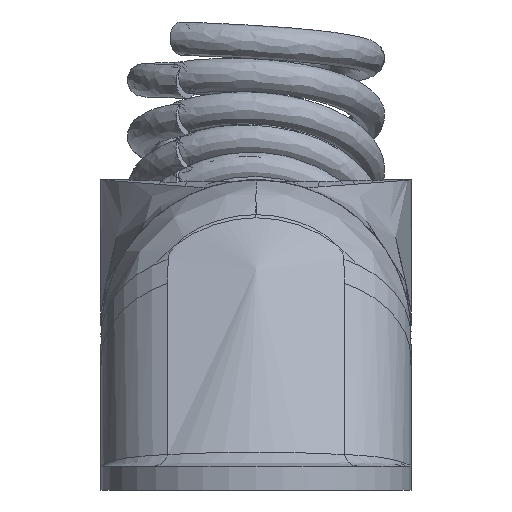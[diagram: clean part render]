
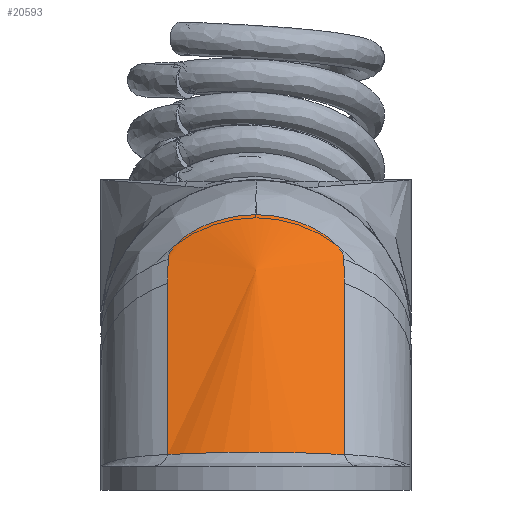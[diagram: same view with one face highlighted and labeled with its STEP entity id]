
A CAD part, left-side view. The second image highlights one B-rep face of the part: STEP entity #20593.
In plain terms, the highlighted free-form (B-spline) face has degree [1, 2] with [2, 9] control points.
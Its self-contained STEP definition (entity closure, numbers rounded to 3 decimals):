
#19006=CARTESIAN_POINT('',(-152.363,3.695,2.484));
#19007=VERTEX_POINT('',#19006);
#19206=CARTESIAN_POINT('',(-152.363,-3.695,2.484));
#19207=VERTEX_POINT('',#19206);
#19216=CARTESIAN_POINT('',(-152.363,-3.695,2.484));
#19217=CARTESIAN_POINT('',(-152.515,-3.456,2.498));
#19218=CARTESIAN_POINT('',(-152.651,-3.208,2.51));
#19219=CARTESIAN_POINT('',(-152.857,-2.767,2.529));
#19220=CARTESIAN_POINT('',(-152.935,-2.578,2.536));
#19221=CARTESIAN_POINT('',(-153.073,-2.193,2.549));
#19222=CARTESIAN_POINT('',(-153.134,-1.998,2.555));
#19223=CARTESIAN_POINT('',(-153.237,-1.604,2.566));
#19224=CARTESIAN_POINT('',(-153.279,-1.406,2.57));
#19225=CARTESIAN_POINT('',(-153.347,-1.006,2.578));
#19226=CARTESIAN_POINT('',(-153.372,-0.806,2.581));
#19227=CARTESIAN_POINT('',(-153.406,-0.403,2.585));
#19228=CARTESIAN_POINT('',(-153.422,0.,2.587));
#19229=CARTESIAN_POINT('',(-153.406,0.403,2.585));
#19230=CARTESIAN_POINT('',(-153.372,0.806,2.581));
#19231=CARTESIAN_POINT('',(-153.347,1.006,2.578));
#19232=CARTESIAN_POINT('',(-153.279,1.406,2.57));
#19233=CARTESIAN_POINT('',(-153.237,1.604,2.566));
#19234=CARTESIAN_POINT('',(-153.134,1.998,2.555));
#19235=CARTESIAN_POINT('',(-153.073,2.193,2.549));
#19236=CARTESIAN_POINT('',(-152.935,2.578,2.536));
#19237=CARTESIAN_POINT('',(-152.857,2.767,2.529));
#19238=CARTESIAN_POINT('',(-152.651,3.208,2.51));
#19239=CARTESIAN_POINT('',(-152.515,3.456,2.498));
#19240=CARTESIAN_POINT('',(-152.363,3.695,2.484));
#19241=B_SPLINE_CURVE_WITH_KNOTS('',3,(#19216,#19217,#19218,#19219,#19220,#19221,#19222,#19223,#19224,#19225,#19226,#19227,#19228,#19229,#19230,#19231,#19232,#19233,#19234,#19235,#19236,#19237,#19238,#19239,#19240),.UNSPECIFIED.,.F.,.U.,(4,2,2,2,2,2,1,2,2,2,2,2,4),(-1.684,-1.583,-1.509,-1.434,-1.36,-1.286,-1.213,-1.139,-1.066,-0.991,-0.917,-0.843,-0.741),.UNSPECIFIED.);
#19242=EDGE_CURVE('',#19207,#19007,#19241,.T.);
#19802=CARTESIAN_POINT('',(-145.177,-3.695,9.671));
#19803=VERTEX_POINT('',#19802);
#19811=CARTESIAN_POINT('',(-152.363,-3.695,2.484));
#19812=DIRECTION('',(0.707,0.,0.707));
#19813=VECTOR('',#19812,10.163);
#19814=LINE('',#19811,#19813);
#19815=EDGE_CURVE('',#19207,#19803,#19814,.T.);
#19974=CARTESIAN_POINT('',(-143.464,0.,12.536));
#19975=VERTEX_POINT('',#19974);
#19986=CARTESIAN_POINT('',(-144.179,-3.687,10.674));
#19987=VERTEX_POINT('',#19986);
#19988=CARTESIAN_POINT('',(-144.179,-3.687,10.674));
#19989=CARTESIAN_POINT('',(-144.,-3.688,10.852));
#19990=CARTESIAN_POINT('',(-143.728,-3.459,11.297));
#19991=CARTESIAN_POINT('',(-143.539,-2.399,12.061));
#19992=CARTESIAN_POINT('',(-143.474,-1.115,12.473));
#19993=CARTESIAN_POINT('',(-143.464,-0.277,12.536));
#19994=CARTESIAN_POINT('',(-143.464,0.,12.536));
#19995=B_SPLINE_CURVE_WITH_KNOTS('',3,(#19988,#19989,#19990,#19991,#19992,#19993,#19994),.UNSPECIFIED.,.F.,.U.,(4,1,1,1,4),(0.,0.076,0.152,0.227,0.265),.UNSPECIFIED.);
#19996=EDGE_CURVE('',#19987,#19975,#19995,.T.);
#20050=CARTESIAN_POINT('',(-145.177,-3.695,9.671));
#20051=CARTESIAN_POINT('',(-144.843,-3.695,10.004));
#20052=CARTESIAN_POINT('',(-144.513,-3.686,10.341));
#20053=CARTESIAN_POINT('',(-144.179,-3.687,10.674));
#20054=B_SPLINE_CURVE_WITH_KNOTS('',3,(#20050,#20051,#20052,#20053),.UNSPECIFIED.,.F.,.U.,(4,4),(0.,0.141),.UNSPECIFIED.);
#20055=EDGE_CURVE('',#19803,#19987,#20054,.T.);
#20455=CARTESIAN_POINT('',(-144.179,3.687,10.674));
#20456=VERTEX_POINT('',#20455);
#20464=CARTESIAN_POINT('',(-144.179,3.687,10.674));
#20465=CARTESIAN_POINT('',(-144.,3.688,10.852));
#20466=CARTESIAN_POINT('',(-143.728,3.459,11.297));
#20467=CARTESIAN_POINT('',(-143.539,2.399,12.061));
#20468=CARTESIAN_POINT('',(-143.474,1.115,12.473));
#20469=CARTESIAN_POINT('',(-143.464,0.277,12.536));
#20470=CARTESIAN_POINT('',(-143.464,0.,12.536));
#20471=B_SPLINE_CURVE_WITH_KNOTS('',3,(#20464,#20465,#20466,#20467,#20468,#20469,#20470),.UNSPECIFIED.,.F.,.U.,(4,1,1,1,4),(0.,0.076,0.152,0.227,0.265),.UNSPECIFIED.);
#20472=EDGE_CURVE('',#20456,#19975,#20471,.T.);
#20500=CARTESIAN_POINT('',(-145.177,3.695,9.671));
#20501=VERTEX_POINT('',#20500);
#20509=CARTESIAN_POINT('',(-145.177,3.695,9.671));
#20510=CARTESIAN_POINT('',(-144.843,3.695,10.004));
#20511=CARTESIAN_POINT('',(-144.513,3.686,10.341));
#20512=CARTESIAN_POINT('',(-144.179,3.687,10.674));
#20513=B_SPLINE_CURVE_WITH_KNOTS('',3,(#20509,#20510,#20511,#20512),.UNSPECIFIED.,.F.,.U.,(4,4),(0.,0.141),.UNSPECIFIED.);
#20514=EDGE_CURVE('',#20501,#20456,#20513,.T.);
#20533=CARTESIAN_POINT('',(-152.363,3.695,2.484));
#20534=DIRECTION('',(0.707,0.,0.707));
#20535=VECTOR('',#20534,10.163);
#20536=LINE('',#20533,#20535);
#20537=EDGE_CURVE('',#19007,#20501,#20536,.T.);
#20558=CARTESIAN_POINT('',(-150.219,6.5,-0.719));
#20559=CARTESIAN_POINT('',(-140.13,6.5,9.37));
#20560=CARTESIAN_POINT('',(-146.969,6.5,-3.969));
#20561=CARTESIAN_POINT('',(-136.88,6.5,6.12));
#20562=CARTESIAN_POINT('',(-146.969,0.,-3.969));
#20563=CARTESIAN_POINT('',(-136.88,0.,6.12));
#20564=CARTESIAN_POINT('',(-146.969,-6.5,-3.969));
#20565=CARTESIAN_POINT('',(-136.88,-6.5,6.12));
#20566=CARTESIAN_POINT('',(-150.219,-6.5,-0.719));
#20567=CARTESIAN_POINT('',(-140.13,-6.5,9.37));
#20568=CARTESIAN_POINT('',(-153.469,-6.5,2.531));
#20569=CARTESIAN_POINT('',(-143.38,-6.5,12.62));
#20570=CARTESIAN_POINT('',(-153.469,0.,2.531));
#20571=CARTESIAN_POINT('',(-143.38,0.,12.62));
#20572=CARTESIAN_POINT('',(-153.469,6.5,2.531));
#20573=CARTESIAN_POINT('',(-143.38,6.5,12.62));
#20574=CARTESIAN_POINT('',(-150.219,6.5,-0.719));
#20575=CARTESIAN_POINT('',(-140.13,6.5,9.37));
#20583=(BOUNDED_SURFACE()B_SPLINE_SURFACE(1,2,((#20558,#20560,#20562,#20564,#20566,#20568,#20570,#20572,#20574),(#20559,#20561,#20563,#20565,#20567,#20569,#20571,#20573,#20575)),.UNSPECIFIED.,.F.,.T.,.U.)B_SPLINE_SURFACE_WITH_KNOTS((2,2),(3,2,2,2,3),(-1.788,0.407),(0.0,10.21,20.42,30.631,40.841),.UNSPECIFIED.)GEOMETRIC_REPRESENTATION_ITEM()RATIONAL_B_SPLINE_SURFACE(((1.0,0.707,1.0,0.707,1.0,0.707,1.0,0.707,1.0),(1.0,0.707,1.0,0.707,1.0,0.707,1.0,0.707,1.0)))REPRESENTATION_ITEM('')SURFACE());
#20584=ORIENTED_EDGE('',*,*,#19242,.F.);
#20585=ORIENTED_EDGE('',*,*,#19815,.T.);
#20586=ORIENTED_EDGE('',*,*,#20055,.T.);
#20587=ORIENTED_EDGE('',*,*,#19996,.T.);
#20588=ORIENTED_EDGE('',*,*,#20472,.F.);
#20589=ORIENTED_EDGE('',*,*,#20514,.F.);
#20590=ORIENTED_EDGE('',*,*,#20537,.F.);
#20591=EDGE_LOOP('',(#20584,#20585,#20586,#20587,#20588,#20589,#20590));
#20592=FACE_OUTER_BOUND('',#20591,.T.);
#20593=ADVANCED_FACE('',(#20592),#20583,.T.);
